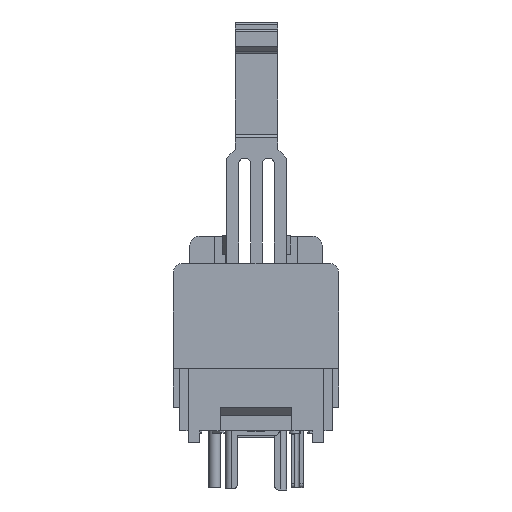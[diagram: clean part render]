
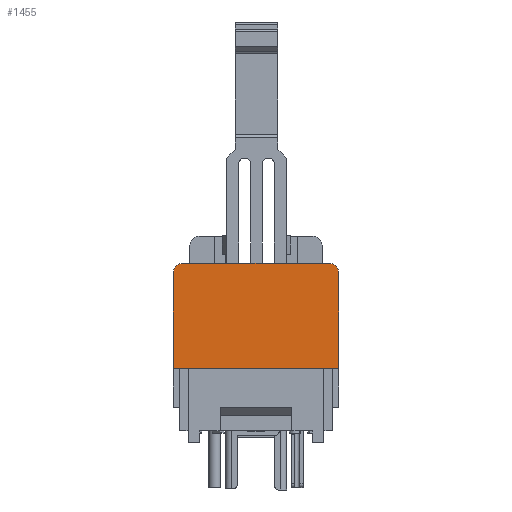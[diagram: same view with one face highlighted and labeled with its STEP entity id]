
A CAD part, left-side view. The second image highlights one B-rep face of the part: STEP entity #1455.
In plain terms, the highlighted planar face has unit normal (-1, 0, 0).
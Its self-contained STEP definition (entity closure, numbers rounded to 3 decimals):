
#744=FACE_OUTER_BOUND('',#2827,.T.);
#1455=ADVANCED_FACE('',(#744),#2097,.T.);
#2097=PLANE('',#14648);
#2827=EDGE_LOOP('',(#5321,#5322,#5323,#5324,#5325,#5326));
#3346=CIRCLE('',#14554,0.8);
#3362=CIRCLE('',#14647,0.8);
#5321=ORIENTED_EDGE('',*,*,#9898,.T.);
#5322=ORIENTED_EDGE('',*,*,#9905,.T.);
#5323=ORIENTED_EDGE('',*,*,#9906,.T.);
#5324=ORIENTED_EDGE('',*,*,#9888,.F.);
#5325=ORIENTED_EDGE('',*,*,#9637,.F.);
#5326=ORIENTED_EDGE('',*,*,#9635,.T.);
#8082=VERTEX_POINT('',#20912);
#8084=VERTEX_POINT('',#20916);
#8086=VERTEX_POINT('',#20922);
#8267=VERTEX_POINT('',#21432);
#8274=VERTEX_POINT('',#21450);
#8279=VERTEX_POINT('',#21465);
#9635=EDGE_CURVE('',#8082,#8084,#3346,.T.);
#9637=EDGE_CURVE('',#8082,#8086,#11455,.T.);
#9888=EDGE_CURVE('',#8086,#8267,#11692,.T.);
#9898=EDGE_CURVE('',#8084,#8274,#11701,.T.);
#9905=EDGE_CURVE('',#8274,#8279,#3362,.T.);
#9906=EDGE_CURVE('',#8279,#8267,#11707,.T.);
#11455=LINE('',#20921,#13143);
#11692=LINE('',#21431,#13380);
#11701=LINE('',#21451,#13389);
#11707=LINE('',#21466,#13395);
#13143=VECTOR('',#16535,1.);
#13380=VECTOR('',#16942,1.);
#13389=VECTOR('',#16957,1.);
#13395=VECTOR('',#16971,1.);
#14554=AXIS2_PLACEMENT_3D('',#20917,#16530,#16531);
#14647=AXIS2_PLACEMENT_3D('',#21464,#16969,#16970);
#14648=AXIS2_PLACEMENT_3D('',#21467,#16972,#16973);
#16530=DIRECTION('',(-1.,0.,0.));
#16531=DIRECTION('',(0.,0.,1.));
#16535=DIRECTION('',(0.,0.,-1.));
#16942=DIRECTION('',(0.,1.,0.));
#16957=DIRECTION('',(0.,1.,0.));
#16969=DIRECTION('',(-1.,0.,0.));
#16970=DIRECTION('',(0.,0.,1.));
#16971=DIRECTION('',(0.,0.,-1.));
#16972=DIRECTION('',(-1.,0.,0.));
#16973=DIRECTION('',(0.,0.,1.));
#20912=CARTESIAN_POINT('',(-32.5,-7.,13.4));
#20916=CARTESIAN_POINT('',(-32.5,-6.2,14.2));
#20917=CARTESIAN_POINT('',(-32.5,-6.2,13.4));
#20921=CARTESIAN_POINT('',(-32.5,-7.,14.2));
#20922=CARTESIAN_POINT('',(-32.5,-7.,5.3));
#21431=CARTESIAN_POINT('',(-32.5,-7.,5.3));
#21432=CARTESIAN_POINT('',(-32.5,7.,5.3));
#21450=CARTESIAN_POINT('',(-32.5,6.2,14.2));
#21451=CARTESIAN_POINT('',(-32.5,-7.,14.2));
#21464=CARTESIAN_POINT('',(-32.5,6.2,13.4));
#21465=CARTESIAN_POINT('',(-32.5,7.,13.4));
#21466=CARTESIAN_POINT('',(-32.5,7.,14.2));
#21467=CARTESIAN_POINT('',(-32.5,-7.,14.2));
